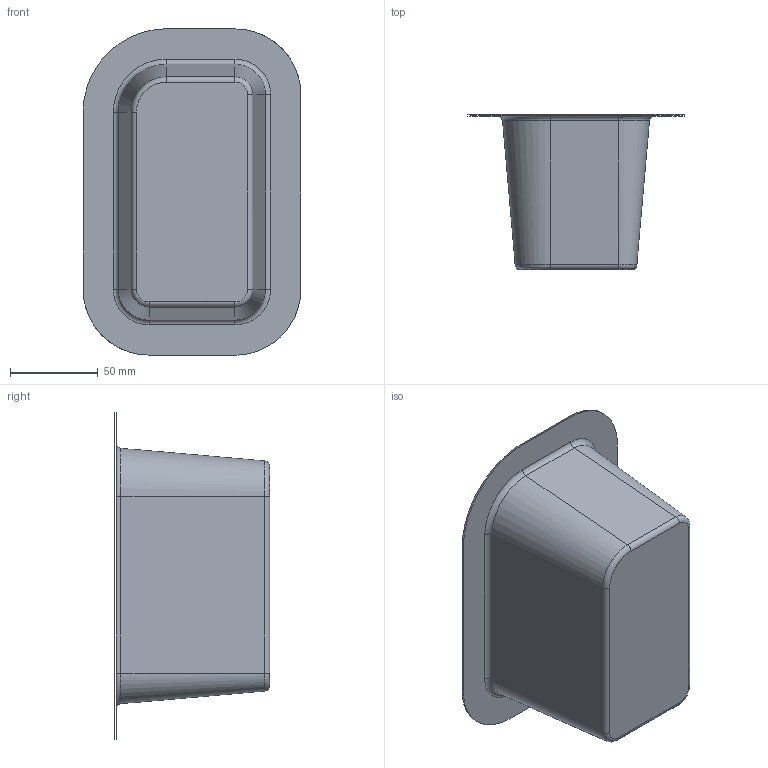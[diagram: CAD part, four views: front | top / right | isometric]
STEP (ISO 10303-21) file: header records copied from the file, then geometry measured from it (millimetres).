
FILE_DESCRIPTION(('CATIA V5 STEP Exchange'),'2;1');
FILE_NAME('C:\_Andres\UNIVERSIDAD\IQS\ASIGNATURAS\DAO\Controles\1617\c3\2inicio\Sanz_Alvarez_control3_v31.stp','2017-02-17T14:22:13+00:00',('none'),('none'),'CATIA Version 5-6 Release 2014 SP1 HF18','CATIA V5 STEP AP203','none');
FILE_SCHEMA(('CONFIG_CONTROL_DESIGN'));
Length unit declared in the file: millimetre
Products named in the file (1): Sanz_Alvarez_control3_v31
Bounding box: 124.34 x 88.67 x 186.34 mm (x, y, z)
Surface area: 75036.5 mm2 (no closed solid volume)
Topology: 0 solids, 2 shells, 27 faces, 80 edges, 57 vertices
Faces by surface type: bspline 16, cylinder 8, plane 3
Entity records: 2048 total; most frequent: CARTESIAN_POINT 1452, ORIENTED_EDGE 128, EDGE_CURVE 72, B_SPLINE_CURVE_WITH_KNOTS 54, DIRECTION 50, VERTEX_POINT 48, EDGE_LOOP 28, ADVANCED_FACE 27
